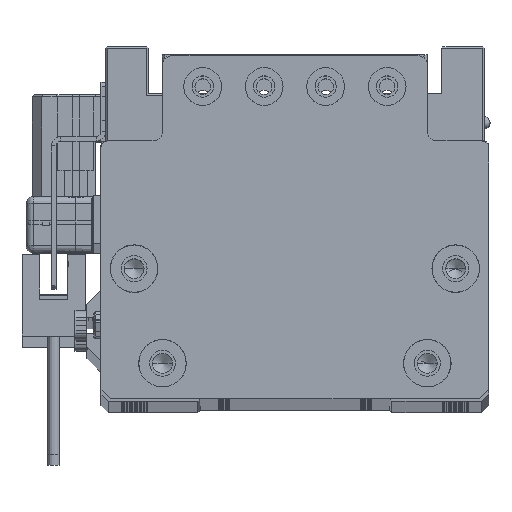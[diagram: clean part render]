
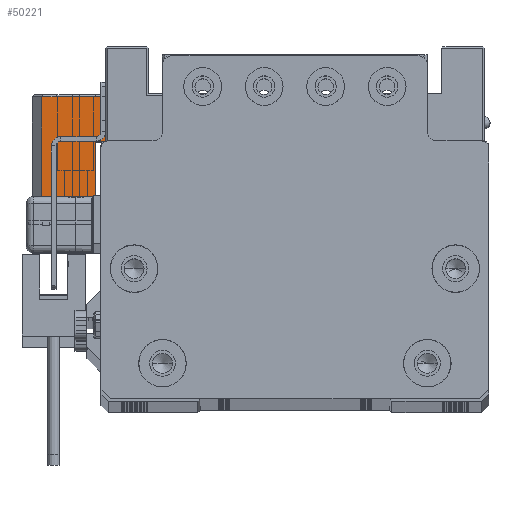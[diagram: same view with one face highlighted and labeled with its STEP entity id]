
A CAD part, top view. The second image highlights one B-rep face of the part: STEP entity #50221.
In plain terms, the highlighted planar face has unit normal (0, 0, 1) as drawn and (1, 0, 0) by its records, which use the part's own axes.
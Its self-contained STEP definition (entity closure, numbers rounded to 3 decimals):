
#173 = LINE ( 'NONE', #53147, #10103 ) ;
#2455 = VECTOR ( 'NONE', #58000, 1000. ) ;
#2791 = ORIENTED_EDGE ( 'NONE', *, *, #16881, .F. ) ;
#3425 = VERTEX_POINT ( 'NONE', #29953 ) ;
#5339 = CARTESIAN_POINT ( 'NONE',  ( 17., -10.75, -13.3 ) ) ;
#6120 = DIRECTION ( 'NONE',  ( 0., 0., -1. ) ) ;
#7792 = VECTOR ( 'NONE', #58614, 1000. ) ;
#7984 = LINE ( 'NONE', #32230, #16668 ) ;
#9309 = ORIENTED_EDGE ( 'NONE', *, *, #46109, .T. ) ;
#10103 = VECTOR ( 'NONE', #42617, 1000. ) ;
#10582 = VECTOR ( 'NONE', #37215, 1000. ) ;
#10884 = CARTESIAN_POINT ( 'NONE',  ( 17., -10.75, -15.5 ) ) ;
#11081 = ORIENTED_EDGE ( 'NONE', *, *, #23961, .F. ) ;
#11827 = PLANE ( 'NONE',  #36497 ) ;
#12108 = VERTEX_POINT ( 'NONE', #60555 ) ;
#13281 = ORIENTED_EDGE ( 'NONE', *, *, #36114, .T. ) ;
#14303 = CARTESIAN_POINT ( 'NONE',  ( 17., -10.75, -15.5 ) ) ;
#16668 = VECTOR ( 'NONE', #46922, 1000. ) ;
#16881 = EDGE_CURVE ( 'NONE', #36426, #12108, #35107, .T. ) ;
#18054 = CARTESIAN_POINT ( 'NONE',  ( 17., 10.25, -15.5 ) ) ;
#21204 = EDGE_CURVE ( 'NONE', #45951, #25784, #173, .T. ) ;
#23961 = EDGE_CURVE ( 'NONE', #45845, #25784, #53521, .T. ) ;
#24182 = EDGE_LOOP ( 'NONE', ( #13281, #9309, #36184, #11081, #29201, #2791 ) ) ;
#25784 = VERTEX_POINT ( 'NONE', #62709 ) ;
#28278 = LINE ( 'NONE', #18054, #10582 ) ;
#29201 = ORIENTED_EDGE ( 'NONE', *, *, #36627, .F. ) ;
#29953 = CARTESIAN_POINT ( 'NONE',  ( 17., 10.25, -15.5 ) ) ;
#30309 = DIRECTION ( 'NONE',  ( 0., 0., 1. ) ) ;
#31647 = VECTOR ( 'NONE', #30309, 1000. ) ;
#32230 = CARTESIAN_POINT ( 'NONE',  ( 17., -10.75, -15.5 ) ) ;
#35107 = LINE ( 'NONE', #54563, #31647 ) ;
#36114 = EDGE_CURVE ( 'NONE', #36426, #3425, #7984, .T. ) ;
#36184 = ORIENTED_EDGE ( 'NONE', *, *, #21204, .T. ) ;
#36426 = VERTEX_POINT ( 'NONE', #56111 ) ;
#36497 = AXIS2_PLACEMENT_3D ( 'NONE', #10884, #49834, #6120 ) ;
#36627 = EDGE_CURVE ( 'NONE', #12108, #45845, #53212, .T. ) ;
#37215 = DIRECTION ( 'NONE',  ( 0., 0., 1. ) ) ;
#42617 = DIRECTION ( 'NONE',  ( 0., -1., 0. ) ) ;
#45845 = VERTEX_POINT ( 'NONE', #49088 ) ;
#45951 = VERTEX_POINT ( 'NONE', #51564 ) ;
#46109 = EDGE_CURVE ( 'NONE', #3425, #45951, #28278, .T. ) ;
#46922 = DIRECTION ( 'NONE',  ( 0., 1., 0. ) ) ;
#49088 = CARTESIAN_POINT ( 'NONE',  ( 17., -10.75, -13.3 ) ) ;
#49834 = DIRECTION ( 'NONE',  ( 1., 0., 0. ) ) ;
#50221 = ADVANCED_FACE ( 'NONE', ( #55251 ), #11827, .T. ) ;
#51564 = CARTESIAN_POINT ( 'NONE',  ( 17., 10.25, -2. ) ) ;
#53147 = CARTESIAN_POINT ( 'NONE',  ( 17., -10.75, -2. ) ) ;
#53212 = LINE ( 'NONE', #5339, #2455 ) ;
#53521 = LINE ( 'NONE', #14303, #7792 ) ;
#54563 = CARTESIAN_POINT ( 'NONE',  ( 17., 0.75, -15.5 ) ) ;
#55251 = FACE_OUTER_BOUND ( 'NONE', #24182, .T. ) ;
#56111 = CARTESIAN_POINT ( 'NONE',  ( 17., 0.75, -15.5 ) ) ;
#58000 = DIRECTION ( 'NONE',  ( 0., -1., 0. ) ) ;
#58614 = DIRECTION ( 'NONE',  ( 0., 0., 1. ) ) ;
#60555 = CARTESIAN_POINT ( 'NONE',  ( 17., 0.75, -13.3 ) ) ;
#62709 = CARTESIAN_POINT ( 'NONE',  ( 17., -10.75, -2. ) ) ;
